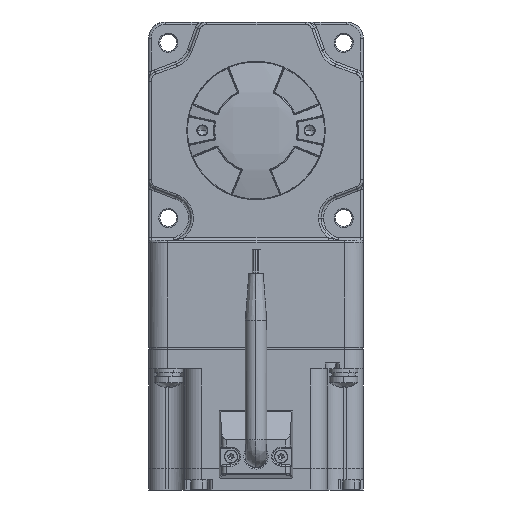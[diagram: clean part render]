
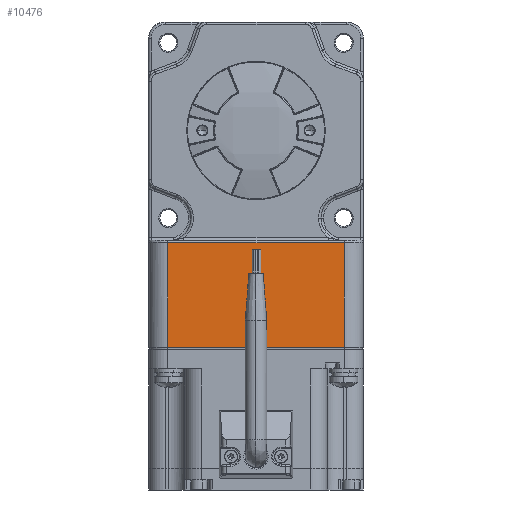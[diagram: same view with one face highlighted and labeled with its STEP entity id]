
A CAD part, left-side view. The second image highlights one B-rep face of the part: STEP entity #10476.
In plain terms, the highlighted planar face has unit normal (-1, 0, 0) as drawn and (0, 1, 0) by its records, which use the part's own axes.
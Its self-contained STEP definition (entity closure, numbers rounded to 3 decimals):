
#5305 = AXIS2_PLACEMENT_3D ( 'NONE', #49611, #49645, #49648 ) ;
#10476 = ADVANCED_FACE ( 'NONE', ( #49634 ), #49637, .T. ) ;
#11952 = ORIENTED_EDGE ( 'NONE', *, *, #54359, .T. ) ;
#11953 = ORIENTED_EDGE ( 'NONE', *, *, #54650, .F. ) ;
#11954 = ORIENTED_EDGE ( 'NONE', *, *, #54653, .T. ) ;
#11955 = ORIENTED_EDGE ( 'NONE', *, *, #54656, .F. ) ;
#13393 = VECTOR ( 'NONE', #24258, 1000. ) ;
#13618 = VECTOR ( 'NONE', #24992, 1000. ) ;
#13623 = VECTOR ( 'NONE', #24995, 1000. ) ;
#13626 = VECTOR ( 'NONE', #24998, 1000. ) ;
#16123 = CARTESIAN_POINT ( 'NONE',  ( 2683.792, -730.157, -37. ) ) ;
#16133 = CARTESIAN_POINT ( 'NONE',  ( 2683.792, -730.157, 37. ) ) ;
#16177 = CARTESIAN_POINT ( 'NONE',  ( 2639.792, -730.157, -37. ) ) ;
#17655 = CARTESIAN_POINT ( 'NONE',  ( 2639.792, -730.157, 37. ) ) ;
#24248 = CARTESIAN_POINT ( 'NONE',  ( 2683.792, -730.157, 0. ) ) ;
#24253 = LINE ( 'NONE', #24248, #13393 ) ;
#24258 = DIRECTION ( 'NONE',  ( 0., 0., -1. ) ) ;
#24990 = LINE ( 'NONE', #24991, #13618 ) ;
#24991 = CARTESIAN_POINT ( 'NONE',  ( 2684.672, -730.157, -37. ) ) ;
#24992 = DIRECTION ( 'NONE',  ( 1., 0., 0. ) ) ;
#24993 = LINE ( 'NONE', #24994, #13623 ) ;
#24994 = CARTESIAN_POINT ( 'NONE',  ( 2639.792, -730.157, 0. ) ) ;
#24995 = DIRECTION ( 'NONE',  ( 0., 0., 1. ) ) ;
#24996 = LINE ( 'NONE', #24997, #13626 ) ;
#24997 = CARTESIAN_POINT ( 'NONE',  ( 2684.672, -730.157, 37. ) ) ;
#24998 = DIRECTION ( 'NONE',  ( -1., 0., 0. ) ) ;
#47372 = VERTEX_POINT ( 'NONE', #16123 ) ;
#47382 = VERTEX_POINT ( 'NONE', #16133 ) ;
#47426 = VERTEX_POINT ( 'NONE', #16177 ) ;
#47432 = VERTEX_POINT ( 'NONE', #17655 ) ;
#49611 = CARTESIAN_POINT ( 'NONE',  ( 2661.792, -730.157, 0. ) ) ;
#49634 = FACE_OUTER_BOUND ( 'NONE', #85198, .T. ) ;
#49637 = PLANE ( 'NONE',  #5305 ) ;
#49645 = DIRECTION ( 'NONE',  ( 0., 1., 0. ) ) ;
#49648 = DIRECTION ( 'NONE',  ( 0., 0., 1. ) ) ;
#54359 = EDGE_CURVE ( 'NONE', #47382, #47372, #24253, .T. ) ;
#54650 = EDGE_CURVE ( 'NONE', #47426, #47372, #24990, .T. ) ;
#54653 = EDGE_CURVE ( 'NONE', #47426, #47432, #24993, .T. ) ;
#54656 = EDGE_CURVE ( 'NONE', #47382, #47432, #24996, .T. ) ;
#85198 = EDGE_LOOP ( 'NONE', ( #11952, #11953, #11954, #11955 ) ) ;
